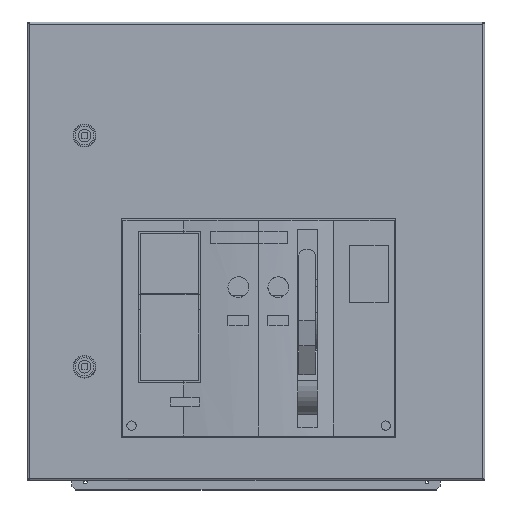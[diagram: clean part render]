
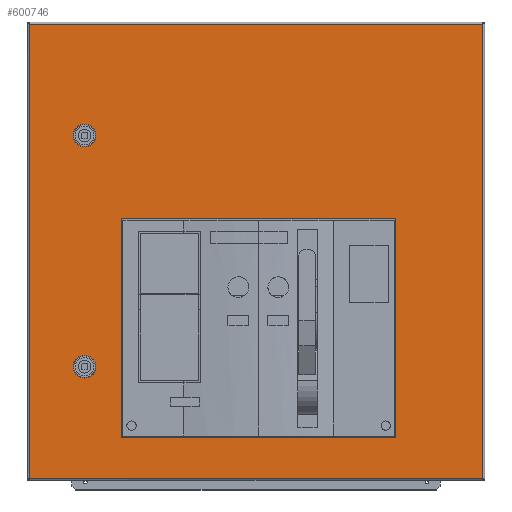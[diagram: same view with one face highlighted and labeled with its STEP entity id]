
A CAD part, top view. The second image highlights one B-rep face of the part: STEP entity #600746.
In plain terms, the highlighted planar face has unit normal (0, 0, 1).
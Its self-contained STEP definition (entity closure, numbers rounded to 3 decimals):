
#594236=CARTESIAN_POINT(' ',(294.1,544.7,26.9));
#594237=VERTEX_POINT(' ',#594236);
#594971=CARTESIAN_POINT(' ',(294.1,-44.7,26.9));
#594972=VERTEX_POINT(' ',#594971);
#595946=CARTESIAN_POINT(' ',(181.4,7.5,26.9));
#595951=DIRECTION(' ',(0.,1.,0.));
#595956=VECTOR(' ',#595951,1.);
#595961=LINE('',#595946,#595956);
#595966=CARTESIAN_POINT(' ',(181.4,7.5,26.9));
#595967=VERTEX_POINT(' ',#595966);
#595971=CARTESIAN_POINT(' ',(181.4,292.5,26.9));
#595972=VERTEX_POINT(' ',#595971);
#595976=EDGE_CURVE(' ',#595967,#595972,#595961,.T.);
#596091=CARTESIAN_POINT(' ',(181.4,292.5,26.9));
#596096=DIRECTION(' ',(-1.,0.,0.));
#596101=VECTOR(' ',#596096,1.);
#596106=LINE('',#596091,#596101);
#596111=CARTESIAN_POINT(' ',(-174.6,292.5,26.9));
#596112=VERTEX_POINT(' ',#596111);
#596116=EDGE_CURVE(' ',#595972,#596112,#596106,.T.);
#596206=CARTESIAN_POINT(' ',(-174.6,292.5,26.9));
#596211=DIRECTION(' ',(0.,-1.,0.));
#596216=VECTOR(' ',#596211,1.);
#596221=LINE('',#596206,#596216);
#596226=CARTESIAN_POINT(' ',(-174.6,7.5,26.9));
#596227=VERTEX_POINT(' ',#596226);
#596231=EDGE_CURVE(' ',#596112,#596227,#596221,.T.);
#596321=CARTESIAN_POINT(' ',(-174.6,7.5,26.9));
#596326=DIRECTION(' ',(1.,0.,0.));
#596331=VECTOR(' ',#596326,1.);
#596336=LINE('',#596321,#596331);
#596341=EDGE_CURVE(' ',#596227,#595967,#596336,.T.);
#596406=CARTESIAN_POINT(' ',(294.1,544.7,26.9));
#596411=DIRECTION(' ',(0.,-1.,0.));
#596416=VECTOR(' ',#596411,1.);
#596421=LINE('',#596406,#596416);
#596426=EDGE_CURVE(' ',#594237,#594972,#596421,.T.);
#598601=CARTESIAN_POINT(' ',(-294.3,-44.7,26.9));
#598602=VERTEX_POINT(' ',#598601);
#599216=CARTESIAN_POINT(' ',(-294.3,544.7,26.9));
#599217=VERTEX_POINT(' ',#599216);
#600586=DIRECTION(' ',(-0.,-0.,1.));
#600591=CARTESIAN_POINT(' ',(294.1,-44.7,26.9));
#600596=DIRECTION(' ',(0.,1.,0.));
#600601=AXIS2_PLACEMENT_3D(' ',#600591,#600586,#600596);
#600606=PLANE('NONE',#600601);
#600611=CARTESIAN_POINT(' ',(-294.3,-44.7,26.9));
#600616=DIRECTION(' ',(1.,0.,0.));
#600621=VECTOR(' ',#600616,1.);
#600626=LINE('',#600611,#600621);
#600631=EDGE_CURVE(' ',#598602,#594972,#600626,.T.);
#600636=ORIENTED_EDGE(' ',*,*,#600631,.T.);
#600641=ORIENTED_EDGE(' ',*,*,#596426,.F.);
#600646=CARTESIAN_POINT(' ',(294.1,544.7,26.9));
#600651=DIRECTION(' ',(-1.,0.,0.));
#600656=VECTOR(' ',#600651,1.);
#600661=LINE('',#600646,#600656);
#600666=EDGE_CURVE(' ',#594237,#599217,#600661,.T.);
#600671=ORIENTED_EDGE(' ',*,*,#600666,.T.);
#600676=CARTESIAN_POINT(' ',(-294.3,544.7,26.9));
#600681=DIRECTION(' ',(0.,-1.,0.));
#600686=VECTOR(' ',#600681,1.);
#600691=LINE('',#600676,#600686);
#600696=EDGE_CURVE(' ',#599217,#598602,#600691,.T.);
#600701=ORIENTED_EDGE(' ',*,*,#600696,.T.);
#600706=EDGE_LOOP(' ',(#600636,#600641,#600671,#600701));
#600711=FACE_OUTER_BOUND(' ',#600706,.T.);
#600716=ORIENTED_EDGE(' ',*,*,#596116,.F.);
#600721=ORIENTED_EDGE(' ',*,*,#595976,.F.);
#600726=ORIENTED_EDGE(' ',*,*,#596341,.F.);
#600731=ORIENTED_EDGE(' ',*,*,#596231,.F.);
#600736=EDGE_LOOP(' ',(#600716,#600721,#600726,#600731));
#600741=FACE_BOUND(' ',#600736,.T.);
#600746=ADVANCED_FACE('NONE',(#600711,#600741),#600606,.T.);
